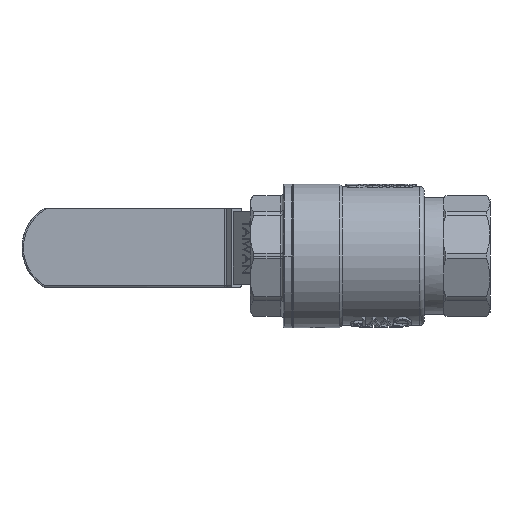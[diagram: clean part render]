
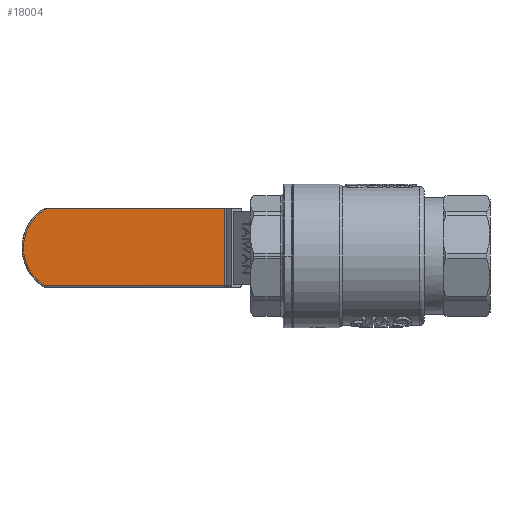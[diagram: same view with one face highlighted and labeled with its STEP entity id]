
A CAD part, front view. The second image highlights one B-rep face of the part: STEP entity #18004.
In plain terms, the highlighted planar face has unit normal (0, -1, 0).
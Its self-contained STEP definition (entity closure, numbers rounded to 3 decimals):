
#14205 = DIRECTION ( 'NONE',  ( 0., 1., 0. ) ) ;
#14800 = CARTESIAN_POINT ( 'NONE',  ( 50.456, 20.5, -13.65 ) ) ;
#18004 = ADVANCED_FACE ( 'NONE', ( #80057 ), #58462, .F. ) ;
#18596 = VERTEX_POINT ( 'NONE', #52715 ) ;
#21756 = CARTESIAN_POINT ( 'NONE',  ( 49.6, 20.5, 12.65 ) ) ;
#23181 = EDGE_LOOP ( 'NONE', ( #79517, #39554, #98271, #27756 ) ) ;
#23420 = VECTOR ( 'NONE', #71859, 1000. ) ;
#24690 = DIRECTION ( 'NONE',  ( 0., -1., 0. ) ) ;
#25064 = DIRECTION ( 'NONE',  ( 0., 0., -1. ) ) ;
#26326 = LINE ( 'NONE', #96369, #23420 ) ;
#27106 = CARTESIAN_POINT ( 'NONE',  ( 50.456, 20.5, 13.15 ) ) ;
#27756 = ORIENTED_EDGE ( 'NONE', *, *, #81901, .T. ) ;
#30443 = VERTEX_POINT ( 'NONE', #96170 ) ;
#39554 = ORIENTED_EDGE ( 'NONE', *, *, #102063, .T. ) ;
#44748 = VECTOR ( 'NONE', #86755, 1000. ) ;
#48374 = CARTESIAN_POINT ( 'NONE',  ( 50.456, 20.5, 12.65 ) ) ;
#50230 = DIRECTION ( 'NONE',  ( 0., 0., 1. ) ) ;
#52715 = CARTESIAN_POINT ( 'NONE',  ( 112.344, 20.5, -13.65 ) ) ;
#57414 = AXIS2_PLACEMENT_3D ( 'NONE', #87138, #24690, #105332 ) ;
#58462 = PLANE ( 'NONE',  #63286 ) ;
#61225 = VERTEX_POINT ( 'NONE', #27106 ) ;
#63286 = AXIS2_PLACEMENT_3D ( 'NONE', #21756, #14205, #50230 ) ;
#67869 = VECTOR ( 'NONE', #25064, 1000. ) ;
#71562 = LINE ( 'NONE', #87542, #44748 ) ;
#71859 = DIRECTION ( 'NONE',  ( 1., 0., 0. ) ) ;
#76192 = EDGE_CURVE ( 'NONE', #85439, #18596, #26326, .T. ) ;
#79517 = ORIENTED_EDGE ( 'NONE', *, *, #76192, .T. ) ;
#80057 = FACE_OUTER_BOUND ( 'NONE', #23181, .T. ) ;
#81901 = EDGE_CURVE ( 'NONE', #61225, #85439, #91940, .T. ) ;
#85439 = VERTEX_POINT ( 'NONE', #14800 ) ;
#86755 = DIRECTION ( 'NONE',  ( -1., 0., 0. ) ) ;
#87138 = CARTESIAN_POINT ( 'NONE',  ( 105., 20.5, 0. ) ) ;
#87542 = CARTESIAN_POINT ( 'NONE',  ( 50.456, 20.5, 13.15 ) ) ;
#91940 = LINE ( 'NONE', #48374, #67869 ) ;
#96170 = CARTESIAN_POINT ( 'NONE',  ( 113.205, 20.5, 13.15 ) ) ;
#96369 = CARTESIAN_POINT ( 'NONE',  ( 49.6, 20.5, -13.65 ) ) ;
#98271 = ORIENTED_EDGE ( 'NONE', *, *, #104637, .T. ) ;
#100011 = CIRCLE ( 'NONE', #57414, 15.5 ) ;
#102063 = EDGE_CURVE ( 'NONE', #18596, #30443, #100011, .T. ) ;
#104637 = EDGE_CURVE ( 'NONE', #30443, #61225, #71562, .T. ) ;
#105332 = DIRECTION ( 'NONE',  ( 0., 0., 1. ) ) ;
